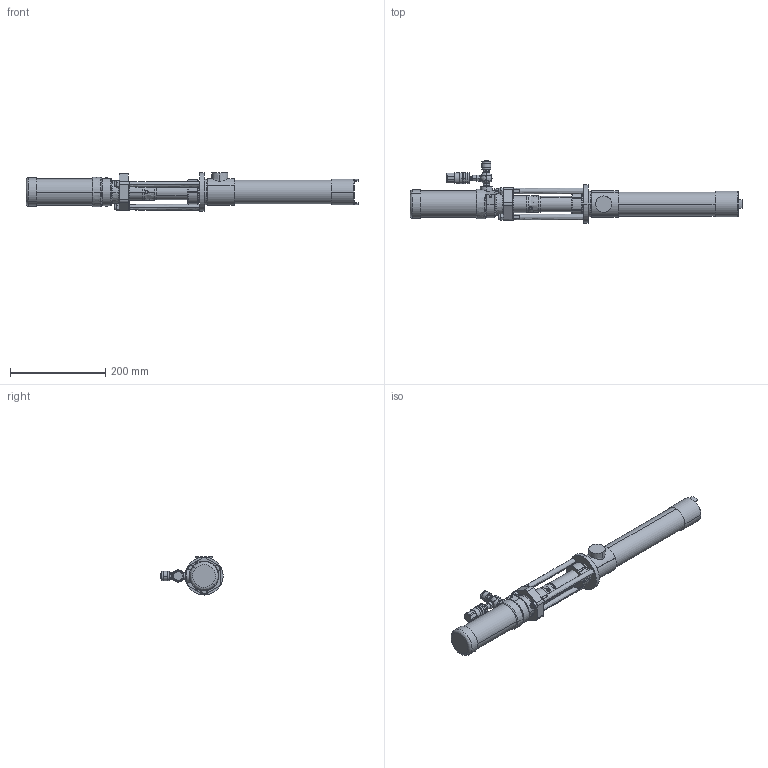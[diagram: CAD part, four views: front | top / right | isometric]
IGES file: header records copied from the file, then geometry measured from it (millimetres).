
Start section:  PTC IGES file: 226952-en-zac.igs
Global section: file name: 226952-en-zac.igs; native system: Creo Parametric by PTC Inc.; preprocessor: 2019030; author: qusrh3; organization: Unknown; date: 20191231.155504; units: inch
Bounding box: 696.52 x 130.59 x 80 mm (x, y, z)
Surface area: 237520.7 mm2 (no closed solid volume)
Topology: 0 solids, 0 shells, 447 faces, 2032 edges, 2032 vertices
Faces by surface type: revolution 273, bspline 174
